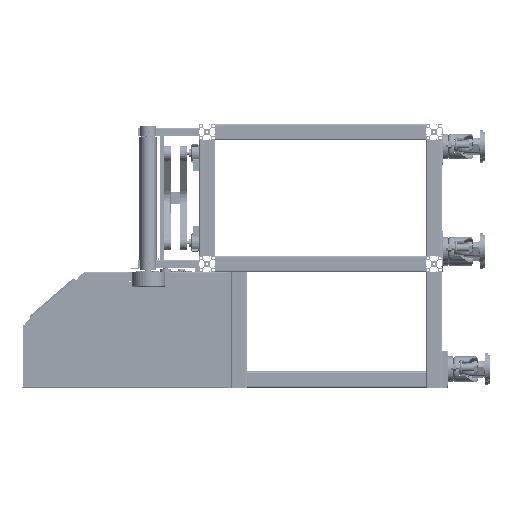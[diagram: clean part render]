
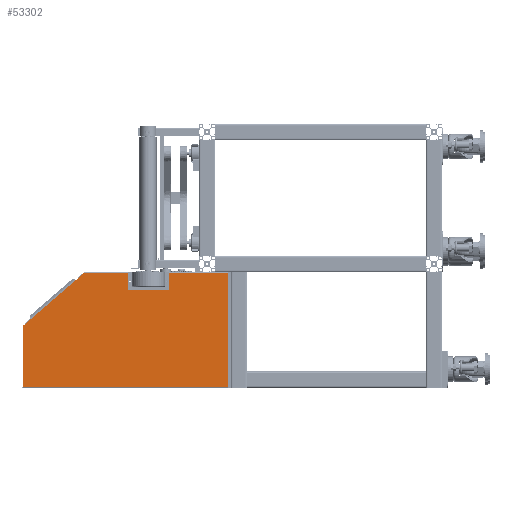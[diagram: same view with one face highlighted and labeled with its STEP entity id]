
A CAD part, left-side view. The second image highlights one B-rep face of the part: STEP entity #53302.
In plain terms, the highlighted planar face has unit normal (-1, 0, 0).
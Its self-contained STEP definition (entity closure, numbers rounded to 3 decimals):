
#32532=FACE_BOUND('',#98816,.T.);
#32533=FACE_BOUND('',#98817,.T.);
#32534=FACE_BOUND('',#98818,.T.);
#36144=PLANE('',#375367);
#53302=ADVANCED_FACE('',(#32532,#32533,#32534),#36144,.F.);
#98816=EDGE_LOOP('',(#218887,#218888));
#98817=EDGE_LOOP('',(#218889,#218890));
#98818=EDGE_LOOP('',(#218891,#218892,#218893,#218894,#218895,#218896,#218897,
#218898,#218899,#218900,#218901,#218902,#218903,#218904));
#118039=LINE('',#622799,#145118);
#118053=LINE('',#622834,#145132);
#118067=LINE('',#622872,#145146);
#118101=LINE('',#622955,#145180);
#118103=LINE('',#622961,#145182);
#118104=LINE('',#622962,#145183);
#118105=LINE('',#622964,#145184);
#118106=LINE('',#622966,#145185);
#118107=LINE('',#622969,#145186);
#118108=LINE('',#622971,#145187);
#118109=LINE('',#622973,#145188);
#118110=LINE('',#622975,#145189);
#118111=LINE('',#622977,#145190);
#145118=VECTOR('',#432681,1.);
#145132=VECTOR('',#432707,1.);
#145146=VECTOR('',#432743,1.);
#145180=VECTOR('',#432813,1.);
#145182=VECTOR('',#432821,1.);
#145183=VECTOR('',#432822,1.);
#145184=VECTOR('',#432823,1.);
#145185=VECTOR('',#432824,1.);
#145186=VECTOR('',#432827,1.);
#145187=VECTOR('',#432828,1.);
#145188=VECTOR('',#432829,1.);
#145189=VECTOR('',#432830,1.);
#145190=VECTOR('',#432831,1.);
#218887=ORIENTED_EDGE('',*,*,#323128,.T.);
#218888=ORIENTED_EDGE('',*,*,#323026,.T.);
#218889=ORIENTED_EDGE('',*,*,#323129,.T.);
#218890=ORIENTED_EDGE('',*,*,#323030,.T.);
#218891=ORIENTED_EDGE('',*,*,#323130,.T.);
#218892=ORIENTED_EDGE('',*,*,#323062,.T.);
#218893=ORIENTED_EDGE('',*,*,#323081,.T.);
#218894=ORIENTED_EDGE('',*,*,#323131,.T.);
#218895=ORIENTED_EDGE('',*,*,#323132,.F.);
#218896=ORIENTED_EDGE('',*,*,#323133,.T.);
#218897=ORIENTED_EDGE('',*,*,#323134,.T.);
#218898=ORIENTED_EDGE('',*,*,#323126,.T.);
#218899=ORIENTED_EDGE('',*,*,#323135,.T.);
#218900=ORIENTED_EDGE('',*,*,#323136,.T.);
#218901=ORIENTED_EDGE('',*,*,#323137,.F.);
#218902=ORIENTED_EDGE('',*,*,#323138,.T.);
#218903=ORIENTED_EDGE('',*,*,#323139,.T.);
#218904=ORIENTED_EDGE('',*,*,#323046,.T.);
#279965=VERTEX_POINT('',#622755);
#279966=VERTEX_POINT('',#622756);
#279969=VERTEX_POINT('',#622764);
#279970=VERTEX_POINT('',#622765);
#279985=VERTEX_POINT('',#622800);
#279986=VERTEX_POINT('',#622801);
#279999=VERTEX_POINT('',#622833);
#280000=VERTEX_POINT('',#622835);
#280012=VERTEX_POINT('',#622871);
#280043=VERTEX_POINT('',#622954);
#280044=VERTEX_POINT('',#622956);
#280045=VERTEX_POINT('',#622963);
#280046=VERTEX_POINT('',#622965);
#280047=VERTEX_POINT('',#622967);
#280048=VERTEX_POINT('',#622970);
#280049=VERTEX_POINT('',#622972);
#280050=VERTEX_POINT('',#622974);
#280051=VERTEX_POINT('',#622976);
#323026=EDGE_CURVE('',#279965,#279966,#353801,.T.);
#323030=EDGE_CURVE('',#279969,#279970,#353803,.T.);
#323046=EDGE_CURVE('',#279985,#279986,#118039,.T.);
#323062=EDGE_CURVE('',#280000,#279999,#118053,.T.);
#323081=EDGE_CURVE('',#279999,#280012,#118067,.T.);
#323126=EDGE_CURVE('',#280044,#280043,#118101,.T.);
#323128=EDGE_CURVE('',#279966,#279965,#353827,.T.);
#323129=EDGE_CURVE('',#279970,#279969,#353828,.T.);
#323130=EDGE_CURVE('',#279986,#280000,#118103,.T.);
#323131=EDGE_CURVE('',#280012,#280045,#118104,.T.);
#323132=EDGE_CURVE('',#280046,#280045,#118105,.T.);
#323133=EDGE_CURVE('',#280046,#280047,#118106,.T.);
#323134=EDGE_CURVE('',#280047,#280044,#353829,.T.);
#323135=EDGE_CURVE('',#280043,#280048,#118107,.T.);
#323136=EDGE_CURVE('',#280048,#280049,#118108,.T.);
#323137=EDGE_CURVE('',#280050,#280049,#118109,.T.);
#323138=EDGE_CURVE('',#280050,#280051,#118110,.T.);
#323139=EDGE_CURVE('',#280051,#279985,#118111,.T.);
#353801=CIRCLE('',#375315,2.25);
#353803=CIRCLE('',#375318,2.25);
#353827=CIRCLE('',#375364,2.25);
#353828=CIRCLE('',#375365,2.25);
#353829=CIRCLE('',#375366,0.5);
#375315=AXIS2_PLACEMENT_3D('',#622754,#432643,#432644);
#375318=AXIS2_PLACEMENT_3D('',#622763,#432651,#432652);
#375364=AXIS2_PLACEMENT_3D('',#622959,#432817,#432818);
#375365=AXIS2_PLACEMENT_3D('',#622960,#432819,#432820);
#375366=AXIS2_PLACEMENT_3D('',#622968,#432825,#432826);
#375367=AXIS2_PLACEMENT_3D('',#622978,#432832,#432833);
#432643=DIRECTION('',(1.,0.,0.));
#432644=DIRECTION('',(0.,1.,0.));
#432651=DIRECTION('',(1.,0.,0.));
#432652=DIRECTION('',(0.,1.,0.));
#432681=DIRECTION('',(0.,0.,-1.));
#432707=DIRECTION('',(0.,0.,1.));
#432743=DIRECTION('',(0.,1.,0.));
#432813=DIRECTION('',(0.,0.,-1.));
#432817=DIRECTION('',(1.,0.,0.));
#432818=DIRECTION('',(0.,1.,0.));
#432819=DIRECTION('',(1.,0.,0.));
#432820=DIRECTION('',(0.,1.,0.));
#432821=DIRECTION('',(0.,1.,0.));
#432822=DIRECTION('',(0.,0.,-1.));
#432823=DIRECTION('',(0.,-1.,0.));
#432824=DIRECTION('',(0.,0.756,-0.655));
#432825=DIRECTION('',(-1.,0.,0.));
#432826=DIRECTION('',(0.,1.,0.));
#432827=DIRECTION('',(0.,-1.,0.));
#432828=DIRECTION('',(0.,0.,1.));
#432829=DIRECTION('',(0.,-1.,0.));
#432830=DIRECTION('',(0.,0.,1.));
#432831=DIRECTION('',(0.,1.,0.));
#432832=DIRECTION('',(1.,0.,0.));
#432833=DIRECTION('',(0.,-1.,0.));
#622754=CARTESIAN_POINT('',(-172.,-11.5,258.));
#622755=CARTESIAN_POINT('',(-172.,-13.75,258.));
#622756=CARTESIAN_POINT('',(-172.,-9.25,258.));
#622763=CARTESIAN_POINT('',(-172.,-101.5,258.));
#622764=CARTESIAN_POINT('',(-172.,-103.75,258.));
#622765=CARTESIAN_POINT('',(-172.,-99.25,258.));
#622799=CARTESIAN_POINT('',(-172.,-94.,300.));
#622800=CARTESIAN_POINT('',(-172.,-94.,278.3));
#622801=CARTESIAN_POINT('',(-172.,-94.,260.));
#622833=CARTESIAN_POINT('',(-172.,-19.,278.3));
#622834=CARTESIAN_POINT('',(-172.,-19.,300.));
#622835=CARTESIAN_POINT('',(-172.,-19.,260.));
#622871=CARTESIAN_POINT('',(-172.,99.366,278.3));
#622872=CARTESIAN_POINT('',(-172.,99.338,278.3));
#622954=CARTESIAN_POINT('',(-172.,248.446,1.7));
#622955=CARTESIAN_POINT('',(-172.,248.446,280.));
#622956=CARTESIAN_POINT('',(-172.,248.446,149.062));
#622959=CARTESIAN_POINT('',(-172.,-11.5,258.));
#622960=CARTESIAN_POINT('',(-172.,-101.5,258.));
#622961=CARTESIAN_POINT('',(-172.,-19.,260.));
#622962=CARTESIAN_POINT('',(-172.,99.366,280.));
#622963=CARTESIAN_POINT('',(-172.,99.366,277.71));
#622964=CARTESIAN_POINT('',(-172.,250.,277.71));
#622965=CARTESIAN_POINT('',(-172.,100.27,277.71));
#622966=CARTESIAN_POINT('',(-172.,252.761,145.551));
#622967=CARTESIAN_POINT('',(-172.,248.274,149.44));
#622968=CARTESIAN_POINT('',(-172.,247.946,149.062));
#622969=CARTESIAN_POINT('',(-172.,248.446,1.7));
#622970=CARTESIAN_POINT('',(-172.,-248.446,1.7));
#622971=CARTESIAN_POINT('',(-172.,-248.446,280.));
#622972=CARTESIAN_POINT('',(-172.,-248.446,277.71));
#622973=CARTESIAN_POINT('',(-172.,250.,277.71));
#622974=CARTESIAN_POINT('',(-172.,-248.3,277.71));
#622975=CARTESIAN_POINT('',(-172.,-248.3,280.));
#622976=CARTESIAN_POINT('',(-172.,-248.3,278.3));
#622977=CARTESIAN_POINT('',(-172.,99.338,278.3));
#622978=CARTESIAN_POINT('',(-172.,250.,280.));
